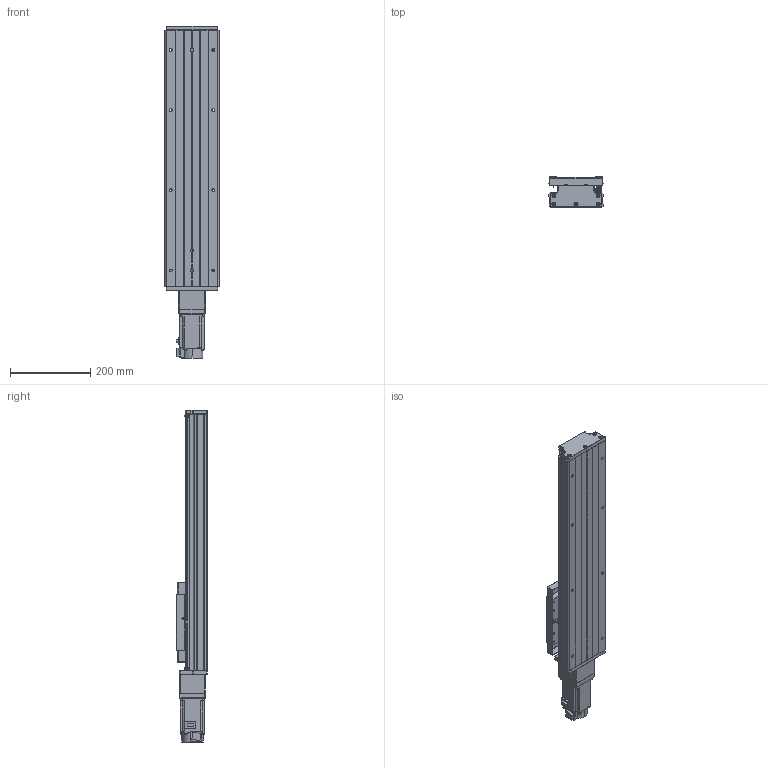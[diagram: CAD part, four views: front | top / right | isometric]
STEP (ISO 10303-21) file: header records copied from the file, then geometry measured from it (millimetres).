
FILE_DESCRIPTION (( 'STEP AP203' ), '1' );
FILE_NAME ('GTH14-400-BC-M40-C4.step', '2023-06-30T08:33:52', ( '微软用户' ), ( '微软中国' ), 'SwSTEP 2.0', 'SolidWorks 2020', '' );
FILE_SCHEMA (( 'CONFIG_CONTROL_DESIGN' ));
Length unit declared in the file: millimetre
Products named in the file (20): CTHA86-013; GTH14-004; CTHA60-016; CTHA86-027-1; GTH14-005; GBT 70.1-M3℅5; HG-KN43J-S100; GB1155-6X6; GBT77-2000 M3×3; GBT 70.3-M3℅8; GBT70.1 M5℅16; GTH14-031; GTH14-400-BC-M40-C4; GBT 70.2-M3¡Á5_M3¡Á6; す晦芛蹟隊 M3℅5; GTH14-001_400; CTHA60-017; CTHA86-006-1_M40; GTH14-002_GTH14-002; EE_SX911P_R
Assembly tree (57 placements, depth 2):
  GTH14-400-BC-M40-C4
    GTH14-001_400
    GTH14-002_GTH14-002
    GTH14-004
    GTH14-005
    GB1155-6X6  x2
    GBT70.1 M5℅16  x10
    GBT 70.2-M3¡Á5_M3¡Á6  x8
    CTHA60-017  x3
    EE_SX911P_R  x3
    CTHA60-016  x2
    GBT 70.1-M3℅5  x6
    GBT77-2000 M3×3  x6
    GTH14-031
    す晦芛蹟隊 M3℅5  x6
    CTHA86-006-1_M40
    CTHA86-013
    CTHA86-027-1
    HG-KN43J-S100
    GBT 70.3-M3℅8  x2
Bounding box: 135 x 78 x 828.7 mm (x, y, z)
Volume: 4170383.7 mm3; surface area: 688705.7 mm2
Topology: 60 solids, 60 shells, 2404 faces, 5733 edges, 3538 vertices
Faces by surface type: plane 1300, cylinder 640, cone 304, torus 120, sphere 20, bspline 20
Entity records: 44112 total; most frequent: CARTESIAN_POINT 9847, DIRECTION 6456, ORIENTED_EDGE 6350, EDGE_CURVE 3175, AXIS2_PLACEMENT_3D 2191, VECTOR 2074, LINE 2074, VERTEX_POINT 2006
